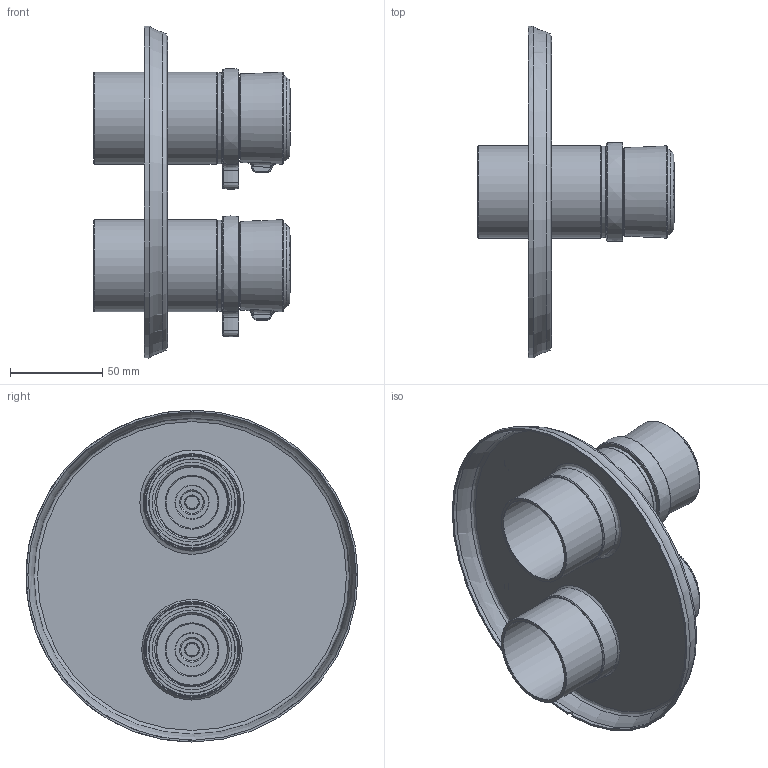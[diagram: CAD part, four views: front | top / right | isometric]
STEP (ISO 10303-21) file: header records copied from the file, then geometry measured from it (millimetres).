
FILE_DESCRIPTION(/* description */ (''),/* implementation_level */ '2;1');
FILE_NAME(/* name */ 'X:\Collections\Prestige\Momenti\MMRD88\TMMRD88J 3D.stp',/* time_stamp */ '2017-05-03T16:45:26-04:00',/* author */ ('simono'),/* organization */ (''),/* preprocessor_version */ 'ST-DEVELOPER v15.6',/* originating_system */ 'Autodesk Inventor 2015',/* authorisation */ '');
FILE_SCHEMA (('AUTOMOTIVE_DESIGN { 1 0 10303 214 3 1 1 }'));
Length unit declared in the file: millimetre
Products named in the file (12): 002-107; 157-050; 1808; 009-077; 009-078; 001-051; 1800; 1630; 050-888; 052-071; 053-004; TMMRD88
Assembly tree (15 placements, depth 4):
  TMMRD88
    1630  x2
      1808
        002-107
        157-050  x2
      1800
        009-077
        009-078
        001-051
    050-888
    052-071  x2
    053-004  x2
Bounding box: 106.54 x 179.99 x 180 mm (x, y, z)
Volume: 147976 mm3; surface area: 162191.7 mm2
Topology: 17 solids, 17 shells, 1002 faces, 2605 edges, 1701 vertices
Faces by surface type: plane 377, bspline 208, cylinder 183, cone 144, torus 76, sphere 14
Full cylindrical faces by diameter (mm): 3 x2, 5 x4, 12 x2, 15 x2, 18 x2, 18.917 x2, 19.75 x2, 21 x2, 25 x2, 28.2 x2, 32.2 x4, 34.3 x4, 37.5 x2, 38 x2, 42 x2, 43.2 x2, 45 x2, 46.6 x2, 47 x2, 49.5 x2, 50 x2, 50.5 x2, 52.5 x2, 178 x1, 180 x1
Entity records: 19888 total; most frequent: CARTESIAN_POINT 8118, ORIENTED_EDGE 2494, DIRECTION 2150, EDGE_CURVE 1247, VERTEX_POINT 854, AXIS2_PLACEMENT_3D 806, EDGE_LOOP 641, LINE 538
